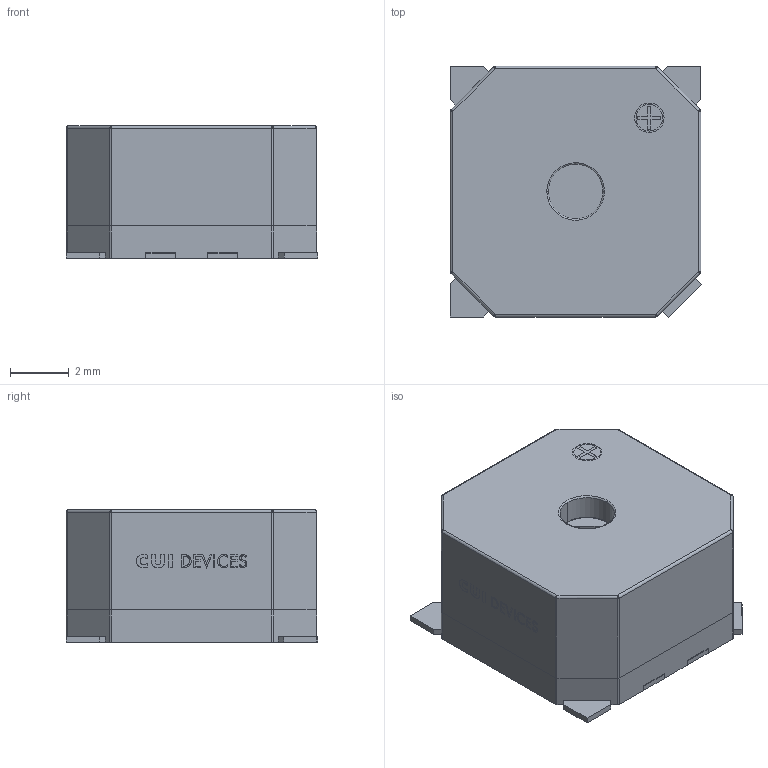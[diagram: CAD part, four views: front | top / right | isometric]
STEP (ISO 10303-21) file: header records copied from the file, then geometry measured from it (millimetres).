
FILE_DESCRIPTION (( 'STEP AP214' ), '1' );
FILE_NAME ('CMT-8504-100-SMT-TR.STEP', '2023-12-07T23:44:29', ( 'USER' ), ( '' ), 'SwSTEP 2.0', 'SolidWorks 2016', '' );
FILE_SCHEMA (( 'AUTOMOTIVE_DESIGN' ));
Length unit declared in the file: millimetre
Products named in the file (5): Logo; Marking; Pins; Package; CMT-8504-100-SMT-TR
Assembly tree (4 placements, depth 2):
  CMT-8504-100-SMT-TR
    Package
    Pins
    Marking
    Logo
Bounding box: 8.53 x 8.53 x 4.5 mm (x, y, z)
Volume: 155.4 mm3; surface area: 544 mm2
Topology: 21 solids, 21 shells, 325 faces, 811 edges, 515 vertices
Faces by surface type: plane 195, bspline 94, cylinder 36
Entity records: 14619 total; most frequent: CARTESIAN_POINT 3538, ORIENTED_EDGE 1590, DIRECTION 1229, EDGE_CURVE 795, LINE 529, VECTOR 529, VERTEX_POINT 515, UNCERTAINTY_MEASURE_WITH_UNIT 355
